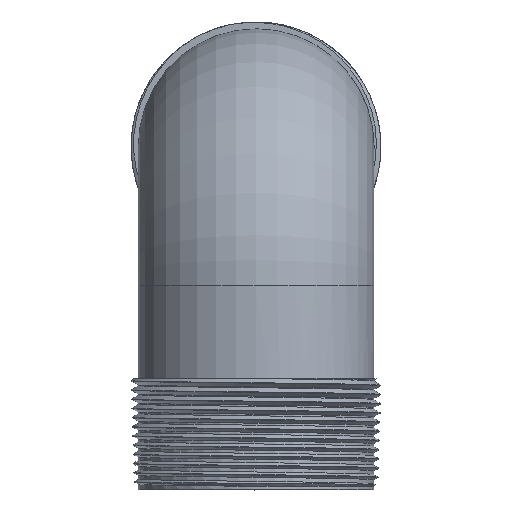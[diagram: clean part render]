
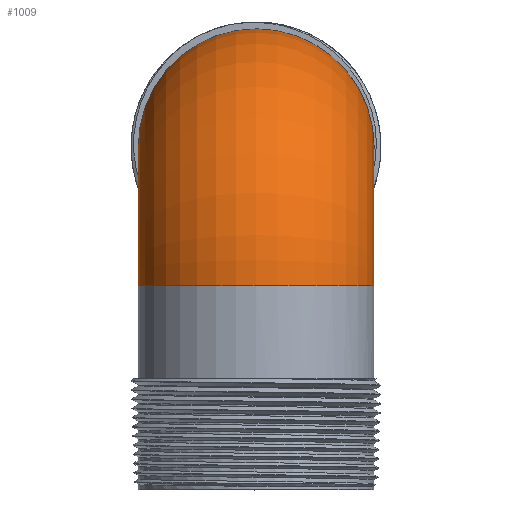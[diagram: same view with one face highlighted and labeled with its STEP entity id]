
A CAD part, top view. The second image highlights one B-rep face of the part: STEP entity #1009.
In plain terms, the highlighted toroidal (fillet/blend) face has major radius 33.528 mm and minor radius 28.321 mm.
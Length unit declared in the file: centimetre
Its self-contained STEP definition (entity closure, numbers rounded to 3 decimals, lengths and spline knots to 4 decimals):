
#105=TOROIDAL_SURFACE('',#1121,3.3528,2.8321);
#187=CIRCLE('',#1064,2.8321);
#231=CIRCLE('',#1111,2.8321);
#307=VERTEX_POINT('',#22477);
#357=VERTEX_POINT('',#33575);
#492=EDGE_CURVE('',#307,#307,#187,.T.);
#553=EDGE_CURVE('',#357,#357,#231,.T.);
#860=ORIENTED_EDGE('',*,*,#553,.T.);
#861=ORIENTED_EDGE('',*,*,#492,.T.);
#914=EDGE_LOOP('',(#860));
#915=EDGE_LOOP('',(#861));
#968=FACE_BOUND('',#914,.T.);
#969=FACE_BOUND('',#915,.T.);
#1009=ADVANCED_FACE('',(#968,#969),#105,.T.);
#1064=AXIS2_PLACEMENT_3D('',#22476,#1232,#1233);
#1111=AXIS2_PLACEMENT_3D('',#33574,#1328,#1329);
#1121=AXIS2_PLACEMENT_3D('',#33589,#1345,$);
#1232=DIRECTION('',(0.,0.,1.));
#1233=DIRECTION('',(0.,2.832,0.));
#1328=DIRECTION('',(0.,1.,0.));
#1329=DIRECTION('',(0.,0.,2.832));
#1345=DIRECTION('',(1.,0.,0.));
#22476=CARTESIAN_POINT('',(0.,3.3528,0.));
#22477=CARTESIAN_POINT('',(0.,0.5207,0.));
#33574=CARTESIAN_POINT('',(0.,0.,3.3528));
#33575=CARTESIAN_POINT('',(0.,0.,0.5207));
#33589=CARTESIAN_POINT('',(0.,0.,0.));
